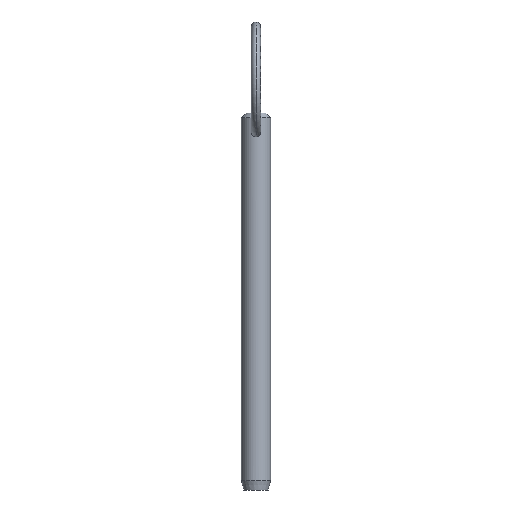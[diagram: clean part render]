
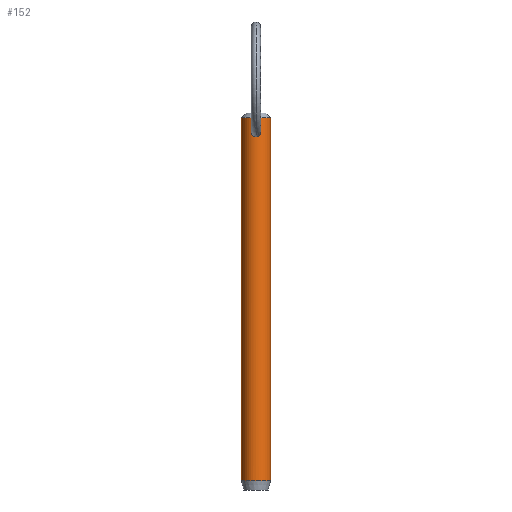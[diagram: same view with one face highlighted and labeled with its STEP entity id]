
A CAD part, front view. The second image highlights one B-rep face of the part: STEP entity #152.
In plain terms, the highlighted cylindrical face has radius 3.175 mm (diameter 6.35 mm), a partial arc.
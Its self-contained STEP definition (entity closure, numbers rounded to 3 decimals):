
#1 = DIRECTION ( 'NONE',  ( 0., 0., -1. ) ) ;
#14 = CARTESIAN_POINT ( 'NONE',  ( 0.515, -3.135, 69.13 ) ) ;
#17 = CARTESIAN_POINT ( 'NONE',  ( 1.004, -3.012, 69.893 ) ) ;
#18 = CARTESIAN_POINT ( 'NONE',  ( -0.328, -3.159, 71.021 ) ) ;
#20 = ORIENTED_EDGE ( 'NONE', *, *, #452, .T. ) ;
#48 = B_SPLINE_CURVE_WITH_KNOTS ( 'NONE', 3,
 ( #164, #53, #426, #461, #88, #203, #429, #17, #462, #246, #292, #97, #14, #321, #91, #132 ),
 .UNSPECIFIED., .F., .F.,
 ( 4, 2, 2, 2, 2, 2, 2, 4 ),
 ( 0.003, 0.003, 0.004, 0.004, 0.005, 0.005, 0.006, 0.006 ),
 .UNSPECIFIED. ) ;
#51 = CARTESIAN_POINT ( 'NONE',  ( -0.264, -3.165, 71.044 ) ) ;
#53 = CARTESIAN_POINT ( 'NONE',  ( 0.134, -3.175, 71.082 ) ) ;
#57 = CARTESIAN_POINT ( 'NONE',  ( 0., -3.175, 69.003 ) ) ;
#60 = CARTESIAN_POINT ( 'NONE',  ( -0.134, -3.175, 69.003 ) ) ;
#82 = ORIENTED_EDGE ( 'NONE', *, *, #237, .T. ) ;
#85 = B_SPLINE_CURVE_WITH_KNOTS ( 'NONE', 3,
 ( #57, #60, #131, #399, #172, #320, #247, #431, #287, #253, #209, #251, #392, #18, #51, #165, #211, #427 ),
 .UNSPECIFIED., .F., .F.,
 ( 4, 2, 2, 2, 2, 2, 2, 2, 4 ),
 ( 0.006, 0.006, 0.007, 0.007, 0.008, 0.008, 0.009, 0.009, 0.009 ),
 .UNSPECIFIED. ) ;
#87 = EDGE_CURVE ( 'NONE', #337, #439, #162, .T. ) ;
#88 = CARTESIAN_POINT ( 'NONE',  ( 0.617, -3.116, 70.851 ) ) ;
#91 = CARTESIAN_POINT ( 'NONE',  ( 0.134, -3.175, 69.003 ) ) ;
#97 = CARTESIAN_POINT ( 'NONE',  ( 0.628, -3.114, 69.204 ) ) ;
#117 = EDGE_CURVE ( 'NONE', #345, #184, #85, .T. ) ;
#129 = EDGE_CURVE ( 'NONE', #184, #345, #48, .T. ) ;
#131 = CARTESIAN_POINT ( 'NONE',  ( -0.269, -3.166, 69.029 ) ) ;
#132 = CARTESIAN_POINT ( 'NONE',  ( 0., -3.175, 69.003 ) ) ;
#136 = CARTESIAN_POINT ( 'NONE',  ( 0., 0., 68.6 ) ) ;
#141 = CARTESIAN_POINT ( 'NONE',  ( 0., -3.175, 69.003 ) ) ;
#147 = VECTOR ( 'NONE', #450, 1000. ) ;
#152 = ADVANCED_FACE ( 'NONE', ( #293, #189 ), #254, .T. ) ;
#154 = CIRCLE ( 'NONE', #397, 3.175 ) ;
#162 = LINE ( 'NONE', #291, #360 ) ;
#164 = CARTESIAN_POINT ( 'NONE',  ( 0., -3.175, 71.082 ) ) ;
#165 = CARTESIAN_POINT ( 'NONE',  ( -0.133, -3.173, 71.074 ) ) ;
#170 = ORIENTED_EDGE ( 'NONE', *, *, #87, .T. ) ;
#172 = CARTESIAN_POINT ( 'NONE',  ( -0.629, -3.114, 69.205 ) ) ;
#184 = VERTEX_POINT ( 'NONE', #376 ) ;
#189 = FACE_BOUND ( 'NONE', #290, .T. ) ;
#191 = AXIS2_PLACEMENT_3D ( 'NONE', #136, #289, #256 ) ;
#201 = CARTESIAN_POINT ( 'NONE',  ( 3.175, 0., -5.92 ) ) ;
#203 = CARTESIAN_POINT ( 'NONE',  ( 0.884, -3.055, 70.557 ) ) ;
#209 = CARTESIAN_POINT ( 'NONE',  ( -0.882, -3.055, 70.56 ) ) ;
#210 = DIRECTION ( 'NONE',  ( 0., 0., 1. ) ) ;
#211 = CARTESIAN_POINT ( 'NONE',  ( -0.067, -3.175, 71.082 ) ) ;
#216 = CARTESIAN_POINT ( 'NONE',  ( -3.175, 0., -5.92 ) ) ;
#220 = CARTESIAN_POINT ( 'NONE',  ( 0., 0., -5.92 ) ) ;
#223 = VERTEX_POINT ( 'NONE', #416 ) ;
#224 = CARTESIAN_POINT ( 'NONE',  ( -3.175, 0., 73.18 ) ) ;
#228 = CARTESIAN_POINT ( 'NONE',  ( 3.175, 0., 68.6 ) ) ;
#233 = EDGE_CURVE ( 'NONE', #223, #280, #236, .T. ) ;
#236 = LINE ( 'NONE', #228, #147 ) ;
#237 = EDGE_CURVE ( 'NONE', #223, #337, #330, .T. ) ;
#246 = CARTESIAN_POINT ( 'NONE',  ( 0.888, -3.049, 69.509 ) ) ;
#247 = CARTESIAN_POINT ( 'NONE',  ( -0.888, -3.049, 69.509 ) ) ;
#251 = CARTESIAN_POINT ( 'NONE',  ( -0.615, -3.116, 70.853 ) ) ;
#253 = CARTESIAN_POINT ( 'NONE',  ( -0.991, -3.016, 70.296 ) ) ;
#254 = CYLINDRICAL_SURFACE ( 'NONE', #191, 3.175 ) ;
#256 = DIRECTION ( 'NONE',  ( -1., 0., 0. ) ) ;
#273 = DIRECTION ( 'NONE',  ( 1., 0., 0. ) ) ;
#280 = VERTEX_POINT ( 'NONE', #201 ) ;
#287 = CARTESIAN_POINT ( 'NONE',  ( -1.004, -3.012, 69.895 ) ) ;
#289 = DIRECTION ( 'NONE',  ( 0., 0., -1. ) ) ;
#290 = EDGE_LOOP ( 'NONE', ( #383, #472 ) ) ;
#291 = CARTESIAN_POINT ( 'NONE',  ( -3.175, 0., 68.6 ) ) ;
#292 = CARTESIAN_POINT ( 'NONE',  ( 0.815, -3.07, 69.395 ) ) ;
#293 = FACE_OUTER_BOUND ( 'NONE', #434, .T. ) ;
#320 = CARTESIAN_POINT ( 'NONE',  ( -0.815, -3.07, 69.395 ) ) ;
#321 = CARTESIAN_POINT ( 'NONE',  ( 0.268, -3.166, 69.029 ) ) ;
#322 = DIRECTION ( 'NONE',  ( 0., 0., -1. ) ) ;
#330 = CIRCLE ( 'NONE', #422, 3.175 ) ;
#337 = VERTEX_POINT ( 'NONE', #224 ) ;
#345 = VERTEX_POINT ( 'NONE', #141 ) ;
#346 = CARTESIAN_POINT ( 'NONE',  ( 0., 0., 73.18 ) ) ;
#360 = VECTOR ( 'NONE', #322, 1000. ) ;
#376 = CARTESIAN_POINT ( 'NONE',  ( 0., -3.175, 71.082 ) ) ;
#383 = ORIENTED_EDGE ( 'NONE', *, *, #129, .T. ) ;
#392 = CARTESIAN_POINT ( 'NONE',  ( -0.508, -3.136, 70.935 ) ) ;
#397 = AXIS2_PLACEMENT_3D ( 'NONE', #220, #210, #475 ) ;
#399 = CARTESIAN_POINT ( 'NONE',  ( -0.516, -3.135, 69.131 ) ) ;
#416 = CARTESIAN_POINT ( 'NONE',  ( 3.175, 0., 73.18 ) ) ;
#419 = ORIENTED_EDGE ( 'NONE', *, *, #233, .F. ) ;
#422 = AXIS2_PLACEMENT_3D ( 'NONE', #346, #1, #273 ) ;
#426 = CARTESIAN_POINT ( 'NONE',  ( 0.269, -3.166, 71.05 ) ) ;
#427 = CARTESIAN_POINT ( 'NONE',  ( 0., -3.175, 71.082 ) ) ;
#429 = CARTESIAN_POINT ( 'NONE',  ( 0.992, -3.016, 70.294 ) ) ;
#431 = CARTESIAN_POINT ( 'NONE',  ( -0.983, -3.02, 69.759 ) ) ;
#434 = EDGE_LOOP ( 'NONE', ( #419, #82, #170, #20 ) ) ;
#439 = VERTEX_POINT ( 'NONE', #216 ) ;
#450 = DIRECTION ( 'NONE',  ( 0., 0., -1. ) ) ;
#452 = EDGE_CURVE ( 'NONE', #439, #280, #154, .T. ) ;
#461 = CARTESIAN_POINT ( 'NONE',  ( 0.51, -3.136, 70.934 ) ) ;
#462 = CARTESIAN_POINT ( 'NONE',  ( 0.982, -3.02, 69.758 ) ) ;
#472 = ORIENTED_EDGE ( 'NONE', *, *, #117, .T. ) ;
#475 = DIRECTION ( 'NONE',  ( -1., 0., 0. ) ) ;
